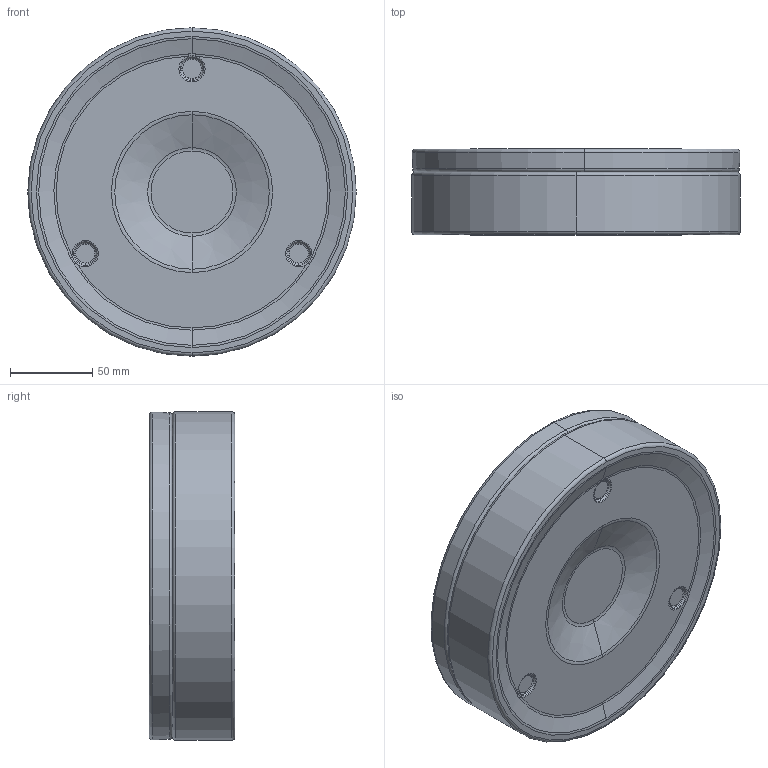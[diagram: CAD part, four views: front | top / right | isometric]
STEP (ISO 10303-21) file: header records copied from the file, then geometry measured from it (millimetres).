
FILE_DESCRIPTION (( 'STEP AP214' ), '1' );
FILE_NAME ('DS4000B__-BARBADOS-D20.STEP', '2015-05-12T17:34:26', ( '' ), ( '' ), 'SwSTEP 2.0', 'SolidWorks 2015', '' );
FILE_SCHEMA (( 'AUTOMOTIVE_DESIGN' ));
Length unit declared in the file: millimetre
Products named in the file (3): DS4000B__-BARBADOS-D20; Coperchio D20; corpo D20
Assembly tree (2 placements, depth 2):
  DS4000B__-BARBADOS-D20
    corpo D20
    Coperchio D20
Bounding box: 200 x 52.11 x 200 mm (x, y, z)
Volume: 855752.2 mm3; surface area: 164251.8 mm2
Topology: 2 solids, 2 shells, 99 faces, 205 edges, 117 vertices
Faces by surface type: torus 56, cone 24, plane 14, bspline 3, cylinder 2
Entity records: 2825 total; most frequent: DIRECTION 570, CARTESIAN_POINT 507, ORIENTED_EDGE 410, AXIS2_PLACEMENT_3D 272, EDGE_CURVE 205, CIRCLE 171, VERTEX_POINT 117, EDGE_LOOP 108
